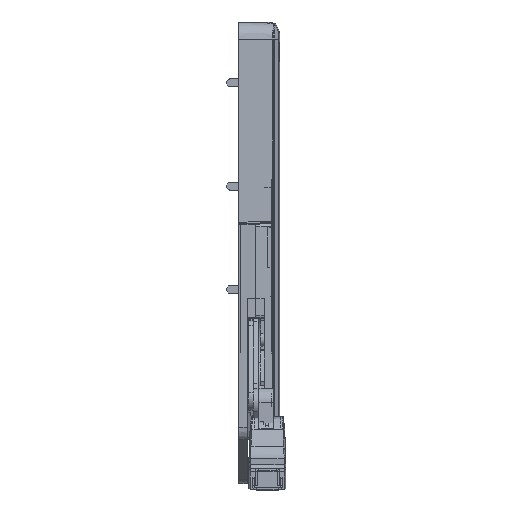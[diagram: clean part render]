
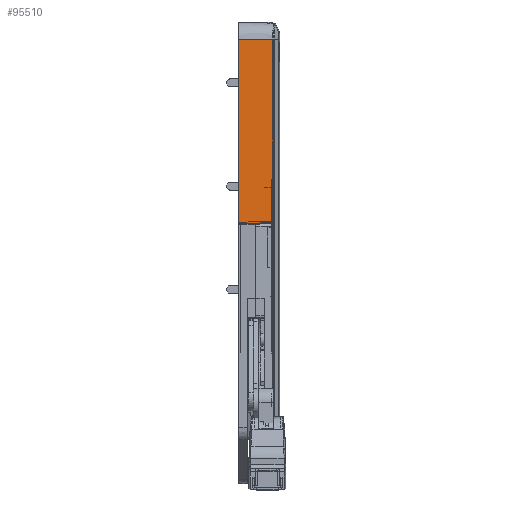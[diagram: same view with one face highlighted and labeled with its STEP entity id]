
A CAD part, front view. The second image highlights one B-rep face of the part: STEP entity #95510.
In plain terms, the highlighted planar face has unit normal (0.035, -0.999, 0).
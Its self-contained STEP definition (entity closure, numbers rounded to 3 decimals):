
#82979=DIRECTION('',(0.,0.,1.));
#82980=VECTOR('',#82979,114.477);
#82981=CARTESIAN_POINT('',(0.,-116.984,160.526));
#82982=LINE('',#82981,#82980);
#82986=CARTESIAN_POINT('',(0.,-116.984,160.526));
#83098=DIRECTION('',(0.,0.,1.));
#83099=VECTOR('',#83098,126.41);
#83100=CARTESIAN_POINT('',(21.,-116.251,34.648));
#83101=LINE('',#83100,#83099);
#83715=CARTESIAN_POINT('',(21.,-116.251,34.648));
#83735=CARTESIAN_POINT('',(21.549,-116.231,
34.648));
#83740=DIRECTION('',(-0.999,-0.035,-0.025));
#83741=VECTOR('',#83740,21.02);
#83742=CARTESIAN_POINT('',(21.,-116.25,161.058));
#83743=LINE('',#83742,#83741);
#83747=DIRECTION('',(-0.999,-0.035,0.));
#83748=VECTOR('',#83747,21.562);
#83749=CARTESIAN_POINT('',(21.549,-116.231,
275.002));
#83750=LINE('',#83749,#83748);
#83754=DIRECTION('',(0.,0.,1.));
#83755=VECTOR('',#83754,240.354);
#83756=CARTESIAN_POINT('',(21.549,-116.231,
34.648));
#83757=LINE('',#83756,#83755);
#83761=DIRECTION('',(-0.999,-0.035,0.));
#83762=VECTOR('',#83761,0.549);
#83763=CARTESIAN_POINT('',(21.549,-116.231,
34.648));
#83764=LINE('',#83763,#83762);
#83774=CARTESIAN_POINT('',(21.,-116.25,161.058));
#93346=VERTEX_POINT('',#83735);
#93349=CARTESIAN_POINT('',(21.549,-116.231,
275.002));
#93350=VERTEX_POINT('',#93349);
#93373=CARTESIAN_POINT('',(0.,-116.984,
275.002));
#93374=VERTEX_POINT('',#93373);
#93426=VERTEX_POINT('',#83715);
#93438=VERTEX_POINT('',#83774);
#93455=VERTEX_POINT('',#82986);
#95494=CARTESIAN_POINT('',(21.844,-116.221,275.));
#95495=DIRECTION('',(-0.035,0.999,0.));
#95496=DIRECTION('',(0.,0.,-1.));
#95497=AXIS2_PLACEMENT_3D('',#95494,#95495,#95496);
#95498=PLANE('',#95497);
#95500=ORIENTED_EDGE('',*,*,#95499,.T.);
#95501=ORIENTED_EDGE('',*,*,#94455,.T.);
#95503=ORIENTED_EDGE('',*,*,#95502,.F.);
#95505=ORIENTED_EDGE('',*,*,#95504,.F.);
#95506=ORIENTED_EDGE('',*,*,#95486,.T.);
#95507=ORIENTED_EDGE('',*,*,#94556,.T.);
#95508=EDGE_LOOP('',(#95500,#95501,#95503,#95505,#95506,#95507));
#95509=FACE_OUTER_BOUND('',#95508,.F.);
#95510=ADVANCED_FACE('',(#95509),#95498,.F.);
#94455=EDGE_CURVE('',#93455,#93374,#82982,.T.);
#94556=EDGE_CURVE('',#93426,#93438,#83101,.T.);
#95486=EDGE_CURVE('',#93346,#93426,#83764,.T.);
#95499=EDGE_CURVE('',#93438,#93455,#83743,.T.);
#95502=EDGE_CURVE('',#93350,#93374,#83750,.T.);
#95504=EDGE_CURVE('',#93346,#93350,#83757,.T.);
